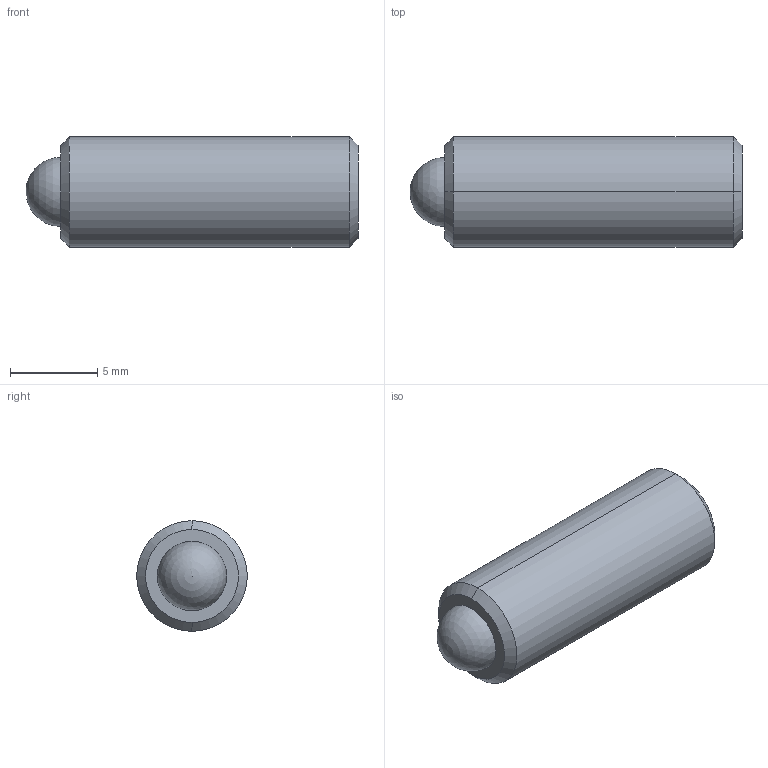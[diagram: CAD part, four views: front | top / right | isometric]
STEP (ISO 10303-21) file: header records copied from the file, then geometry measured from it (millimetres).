
FILE_DESCRIPTION (( 'STEP AP214' ), '1' );
FILE_NAME ('TS250-100-750.STEP', '2013-02-11T23:14:58', ( 'workpc' ), ( 'Microsoft' ), 'SwSTEP 2.0', 'SolidWorks 2013', '' );
FILE_SCHEMA (( 'AUTOMOTIVE_DESIGN' ));
Length unit declared in the file: inch
Products named in the file (1): TS250-100-750
Bounding box: 19.05 x 6.35 x 6.35 mm (x, y, z)
Volume: 532.6 mm3; surface area: 484.3 mm2
Topology: 2 solids, 2 shells, 20 faces, 45 edges, 29 vertices
Faces by surface type: plane 10, cylinder 4, cone 4, sphere 2
Entity records: 599 total; most frequent: DIRECTION 96, CARTESIAN_POINT 87, ORIENTED_EDGE 80, EDGE_CURVE 40, AXIS2_PLACEMENT_3D 35, LINE 26, VERTEX_POINT 26, VECTOR 26
